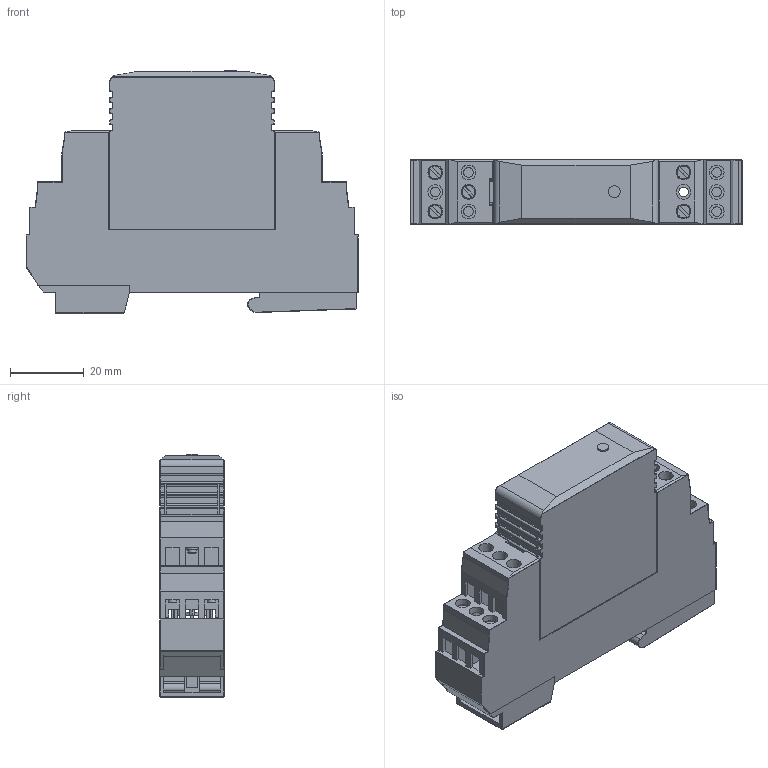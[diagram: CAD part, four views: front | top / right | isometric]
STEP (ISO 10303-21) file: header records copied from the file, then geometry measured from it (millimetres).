
FILE_DESCRIPTION(/* description */ (''),/* implementation_level */ '2;1');
FILE_NAME(/* name */ 'K:\PROJEKTY ROZPRACOVANÉ\MODELY DO KATALOGU\HDT\3D - step\HSAD-P.stp',/* time_stamp */ '2021-07-23T07:27:29+02:00',/* author */ ('miko'),/* organization */ (''),/* preprocessor_version */ 'ST-DEVELOPER v18.1',/* originating_system */ 'Autodesk Inventor 2022',/* authorisation */ '');
FILE_SCHEMA (('AUTOMOTIVE_DESIGN { 1 0 10303 214 3 1 1 }'));
Length unit declared in the file: millimetre
Products named in the file (3): HSAP; HSAS, HSAP; ŠROUB
Assembly tree (6 placements, depth 2):
  HSAP
    HSAS, HSAP
    ŠROUB  x5
Bounding box: 90.15 x 17.5 x 66.25 mm (x, y, z)
Volume: 49145.9 mm3; surface area: 32449.5 mm2
Topology: 14 solids, 14 shells, 1085 faces, 2802 edges, 1746 vertices
Faces by surface type: plane 647, cylinder 339, torus 50, sphere 28, cone 15, bspline 6
Full cylindrical faces by diameter (mm): 2.3 x10, 2.6 x12, 3 x5, 3.2 x1, 3.8 x5, 4 x18, 6 x1
Entity records: 31198 total; most frequent: CARTESIAN_POINT 5640, ORIENTED_EDGE 5288, DIRECTION 5270, EDGE_CURVE 2644, LINE 2006, VECTOR 2006, VERTEX_POINT 1642, AXIS2_PLACEMENT_3D 1632
